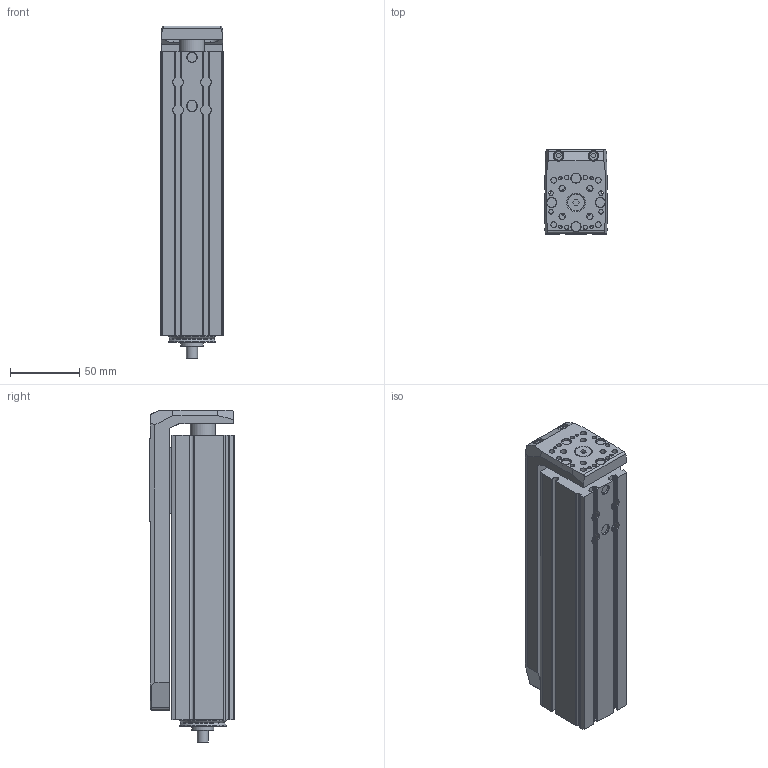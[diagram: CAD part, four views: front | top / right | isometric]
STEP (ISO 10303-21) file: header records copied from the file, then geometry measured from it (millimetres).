
FILE_DESCRIPTION(/* description */ ('STEP AP214'),/* implementation_level */ '2;1');
FILE_NAME(/* name */ 'MSCE 45 1010 125(0)',/* time_stamp */ '2023-10-09T11:31:42+02:00',/* author */ ('License CC BY-ND 4.0'),/* organization */ ('CADENAS'),/* preprocessor_version */ 'ST-DEVELOPER v19.3',/* originating_system */ 'PARTsolutions',/* authorisation */ ' ');
FILE_SCHEMA (('AUTOMOTIVE_DESIGN {1 0 10303 214 3 1 1}'));
Length unit declared in the file: millimetre
Products named in the file (3): MSCE 45 1010 125(0); 45(125)_prp; 45(125)_msce
Assembly tree (2 placements, depth 2):
  MSCE 45 1010 125(0)
    45(125)_prp
    45(125)_msce
Bounding box: 45 x 60.5 x 239 mm (x, y, z)
Volume: 442661.3 mm3; surface area: 125888.4 mm2
Topology: 2 solids, 2 shells, 436 faces, 1125 edges, 741 vertices
Faces by surface type: plane 208, cylinder 198, cone 23, torus 7
Full cylindrical faces by diameter (mm): 2.459 x8, 3.2 x8, 3.242 x8, 4 x2, 4.134 x4, 4.5 x4, 6 x8, 7 x7, 7.5 x4, 7.6 x2, 8 x1, 12 x1, 16 x1, 18 x2, 24 x1, 24.5 x1, 34 x2, 37.5 x2
Entity records: 14172 total; most frequent: CARTESIAN_POINT 2561, DIRECTION 2180, ORIENTED_EDGE 2034, EDGE_CURVE 1017, AXIS2_PLACEMENT_3D 825, VERTEX_POINT 729, FACE_BOUND 612, EDGE_LOOP 608
